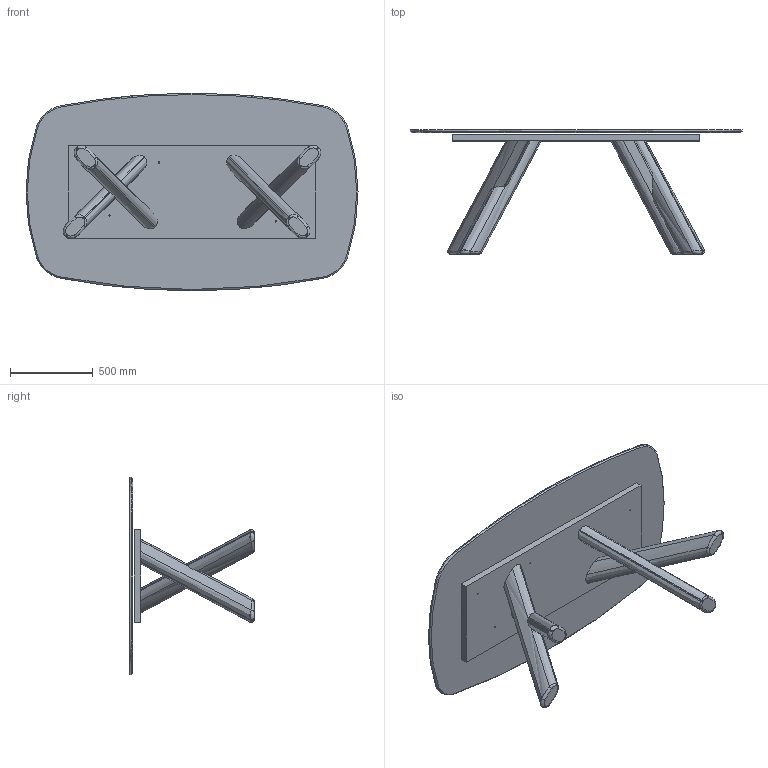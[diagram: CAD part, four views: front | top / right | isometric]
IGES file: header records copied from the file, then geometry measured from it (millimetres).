
Start section: SolidWorks IGES file using analytic representation for surfaces
Global section: file name: Y:\eforma\TECNICO\SOLIDWORKS\E-FORMA\1-TAVOLI\CANOVA\08 modelli 3D web\CN21C_CANOVA_top ceramica 200x119x75h sag.IGS; native system: SolidWorks 2022; preprocessor: SolidWorks 2022; author: eforma.tech; date: 250415.090409; units: millimetre
Bounding box: 2000 x 748 x 1190 mm (x, y, z)
Volume: 105694103.7 mm3; surface area: 7655562.6 mm2
Topology: 6 solids, 6 shells, 174 faces, 420 edges, 264 vertices
Faces by surface type: revolution 116, bspline 36, plane 22
